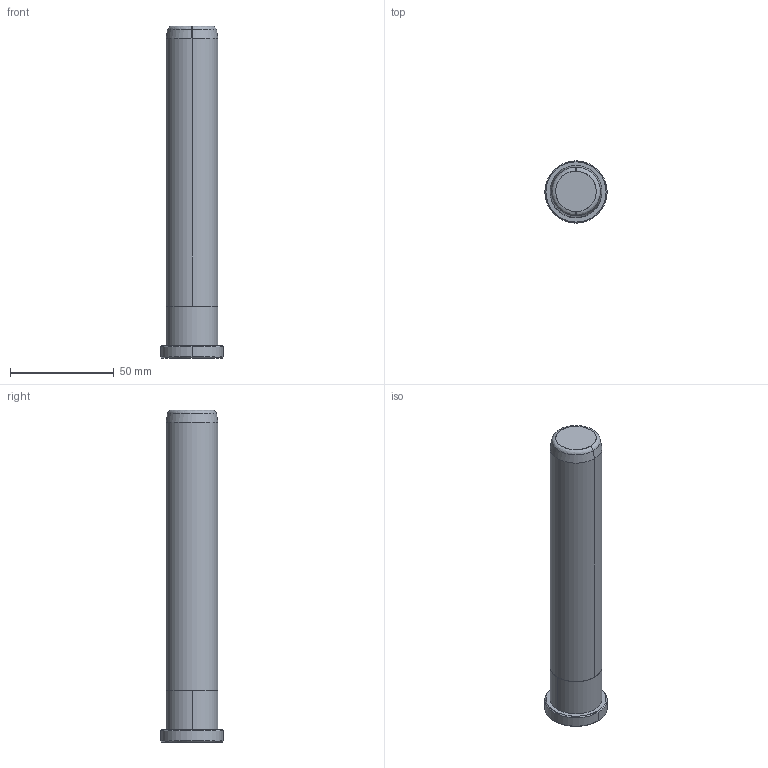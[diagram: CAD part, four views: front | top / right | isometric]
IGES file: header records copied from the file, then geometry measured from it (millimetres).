
Start section: START RECORD GO HERE.
Global section: file name: B85825160.igs; native system: DASSAULT SYSTEMES CATIA V5 R20 - www.3ds.com; preprocessor: CATIA Version 5 Release 20 ; author: Utente; organization: NB04-ASUS; date: 20200419.204926; units: millimetre
Bounding box: 30 x 30 x 160 mm (x, y, z)
Surface area: 13885.2 mm2 (no closed solid volume)
Topology: 0 solids, 0 shells, 20 faces, 80 edges, 80 vertices
Faces by surface type: revolution 16, plane 4
